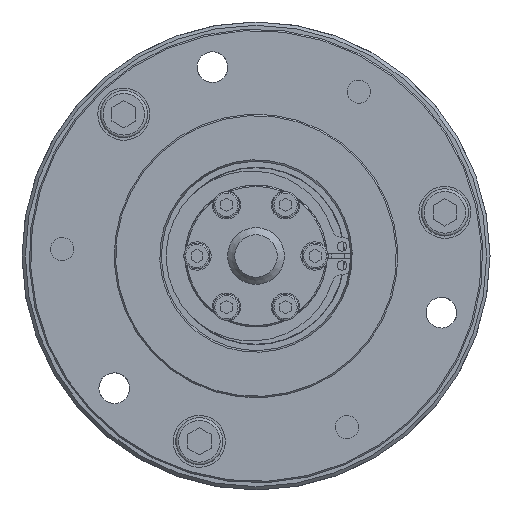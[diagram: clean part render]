
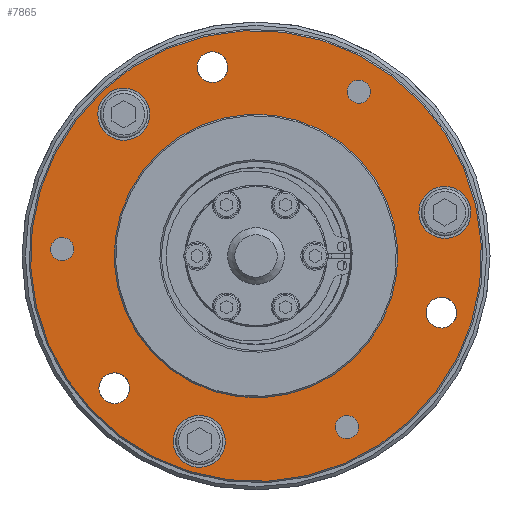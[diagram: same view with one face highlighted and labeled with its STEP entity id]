
A CAD part, left-side view. The second image highlights one B-rep face of the part: STEP entity #7865.
In plain terms, the highlighted planar face has unit normal (-1, 0, 0).
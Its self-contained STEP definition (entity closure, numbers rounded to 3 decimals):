
#1658=PLANE('',#8580);
#2002=FACE_BOUND('',#2921,.T.);
#2003=FACE_BOUND('',#2922,.T.);
#2004=FACE_BOUND('',#2923,.T.);
#2005=FACE_BOUND('',#2924,.T.);
#2006=FACE_BOUND('',#2925,.T.);
#2007=FACE_BOUND('',#2926,.T.);
#2008=FACE_BOUND('',#2927,.T.);
#2009=FACE_BOUND('',#2928,.T.);
#2010=FACE_BOUND('',#2929,.T.);
#2011=FACE_BOUND('',#2930,.T.);
#2295=FACE_OUTER_BOUND('',#2920,.T.);
#2920=EDGE_LOOP('',(#6034));
#2921=EDGE_LOOP('',(#6035));
#2922=EDGE_LOOP('',(#6036));
#2923=EDGE_LOOP('',(#6037));
#2924=EDGE_LOOP('',(#6038));
#2925=EDGE_LOOP('',(#6039));
#2926=EDGE_LOOP('',(#6040));
#2927=EDGE_LOOP('',(#6041));
#2928=EDGE_LOOP('',(#6042));
#2929=EDGE_LOOP('',(#6043));
#2930=EDGE_LOOP('',(#6044));
#3507=CIRCLE('',#8548,2.459);
#3508=CIRCLE('',#8550,2.459);
#3509=CIRCLE('',#8552,2.459);
#3510=CIRCLE('',#8554,5.5);
#3513=CIRCLE('',#8559,5.5);
#3516=CIRCLE('',#8564,5.5);
#3518=CIRCLE('',#8568,3.25);
#3519=CIRCLE('',#8570,3.25);
#3520=CIRCLE('',#8572,3.25);
#3521=CIRCLE('',#8574,30.);
#3525=CIRCLE('',#8581,47.7);
#4001=VERTEX_POINT('',#12129);
#4002=VERTEX_POINT('',#12132);
#4003=VERTEX_POINT('',#12135);
#4004=VERTEX_POINT('',#12138);
#4007=VERTEX_POINT('',#12146);
#4010=VERTEX_POINT('',#12154);
#4012=VERTEX_POINT('',#12160);
#4013=VERTEX_POINT('',#12163);
#4014=VERTEX_POINT('',#12166);
#4015=VERTEX_POINT('',#12169);
#4019=VERTEX_POINT('',#12180);
#4781=EDGE_CURVE('',#4001,#4001,#3507,.T.);
#4782=EDGE_CURVE('',#4002,#4002,#3508,.T.);
#4783=EDGE_CURVE('',#4003,#4003,#3509,.T.);
#4784=EDGE_CURVE('',#4004,#4004,#3510,.T.);
#4787=EDGE_CURVE('',#4007,#4007,#3513,.T.);
#4790=EDGE_CURVE('',#4010,#4010,#3516,.T.);
#4792=EDGE_CURVE('',#4012,#4012,#3518,.T.);
#4793=EDGE_CURVE('',#4013,#4013,#3519,.T.);
#4794=EDGE_CURVE('',#4014,#4014,#3520,.T.);
#4795=EDGE_CURVE('',#4015,#4015,#3521,.T.);
#4799=EDGE_CURVE('',#4019,#4019,#3525,.T.);
#6034=ORIENTED_EDGE('',*,*,#4799,.F.);
#6035=ORIENTED_EDGE('',*,*,#4795,.T.);
#6036=ORIENTED_EDGE('',*,*,#4781,.T.);
#6037=ORIENTED_EDGE('',*,*,#4782,.T.);
#6038=ORIENTED_EDGE('',*,*,#4783,.T.);
#6039=ORIENTED_EDGE('',*,*,#4784,.T.);
#6040=ORIENTED_EDGE('',*,*,#4787,.T.);
#6041=ORIENTED_EDGE('',*,*,#4790,.T.);
#6042=ORIENTED_EDGE('',*,*,#4792,.T.);
#6043=ORIENTED_EDGE('',*,*,#4793,.T.);
#6044=ORIENTED_EDGE('',*,*,#4794,.T.);
#7865=ADVANCED_FACE('',(#2295,#2002,#2003,#2004,#2005,#2006,#2007,#2008,
#2009,#2010,#2011),#1658,.T.);
#8548=AXIS2_PLACEMENT_3D('',#12130,#9903,#9904);
#8550=AXIS2_PLACEMENT_3D('',#12133,#9907,#9908);
#8552=AXIS2_PLACEMENT_3D('',#12136,#9911,#9912);
#8554=AXIS2_PLACEMENT_3D('',#12139,#9915,#9916);
#8559=AXIS2_PLACEMENT_3D('',#12147,#9925,#9926);
#8564=AXIS2_PLACEMENT_3D('',#12155,#9935,#9936);
#8568=AXIS2_PLACEMENT_3D('',#12161,#9943,#9944);
#8570=AXIS2_PLACEMENT_3D('',#12164,#9947,#9948);
#8572=AXIS2_PLACEMENT_3D('',#12167,#9951,#9952);
#8574=AXIS2_PLACEMENT_3D('',#12170,#9955,#9956);
#8580=AXIS2_PLACEMENT_3D('',#12179,#9967,#9968);
#8581=AXIS2_PLACEMENT_3D('',#12181,#9969,#9970);
#9903=DIRECTION('center_axis',(1.,0.,0.));
#9904=DIRECTION('ref_axis',(0.,-0.225,-0.974));
#9907=DIRECTION('center_axis',(1.,0.,0.));
#9908=DIRECTION('ref_axis',(0.,-0.225,-0.974));
#9911=DIRECTION('center_axis',(1.,0.,0.));
#9912=DIRECTION('ref_axis',(0.,-0.225,-0.974));
#9915=DIRECTION('center_axis',(1.,0.,0.));
#9916=DIRECTION('ref_axis',(0.,-0.225,-0.974));
#9925=DIRECTION('center_axis',(1.,0.,0.));
#9926=DIRECTION('ref_axis',(0.,-0.225,-0.974));
#9935=DIRECTION('center_axis',(1.,0.,0.));
#9936=DIRECTION('ref_axis',(0.,-0.225,-0.974));
#9943=DIRECTION('center_axis',(1.,0.,0.));
#9944=DIRECTION('ref_axis',(0.,-0.225,-0.974));
#9947=DIRECTION('center_axis',(1.,0.,0.));
#9948=DIRECTION('ref_axis',(0.,-0.225,-0.974));
#9951=DIRECTION('center_axis',(1.,0.,0.));
#9952=DIRECTION('ref_axis',(0.,-0.225,-0.974));
#9955=DIRECTION('center_axis',(1.,0.,0.));
#9956=DIRECTION('ref_axis',(0.,-0.974,0.225));
#9967=DIRECTION('center_axis',(-1.,0.,0.));
#9968=DIRECTION('ref_axis',(0.,-0.225,-0.974));
#9969=DIRECTION('center_axis',(1.,0.,0.));
#9970=DIRECTION('ref_axis',(0.,0.974,-0.225));
#12129=CARTESIAN_POINT('',(-14.5,-19.801,-38.596));
#12130=CARTESIAN_POINT('Origin',(-14.5,-19.248,-36.201));
#12132=CARTESIAN_POINT('',(-14.5,-22.28,32.374));
#12133=CARTESIAN_POINT('Origin',(-14.5,-21.727,34.77));
#12135=CARTESIAN_POINT('',(-14.5,40.422,-0.965));
#12136=CARTESIAN_POINT('Origin',(-14.5,40.975,1.431));
#12138=CARTESIAN_POINT('',(-14.5,26.725,24.626));
#12139=CARTESIAN_POINT('Origin',(-14.5,27.962,29.986));
#12146=CARTESIAN_POINT('',(-14.5,-41.186,3.864));
#12147=CARTESIAN_POINT('Origin',(-14.5,-39.949,9.223));
#12154=CARTESIAN_POINT('',(-14.5,10.75,-44.568));
#12155=CARTESIAN_POINT('Origin',(-14.5,11.987,-39.208));
#12160=CARTESIAN_POINT('',(-14.5,8.492,36.782));
#12161=CARTESIAN_POINT('Origin',(-14.5,9.223,39.949));
#12163=CARTESIAN_POINT('',(-14.5,-39.94,-15.154));
#12164=CARTESIAN_POINT('Origin',(-14.5,-39.208,-11.987));
#12166=CARTESIAN_POINT('',(-14.5,29.254,-31.129));
#12167=CARTESIAN_POINT('Origin',(-14.5,29.986,-27.962));
#12169=CARTESIAN_POINT('',(-14.5,-29.231,6.749));
#12170=CARTESIAN_POINT('Origin',(-14.5,0.,0.));
#12179=CARTESIAN_POINT('Origin',(-14.5,-38.,8.773));
#12180=CARTESIAN_POINT('',(-14.5,-46.477,10.73));
#12181=CARTESIAN_POINT('Origin',(-14.5,0.,0.));
